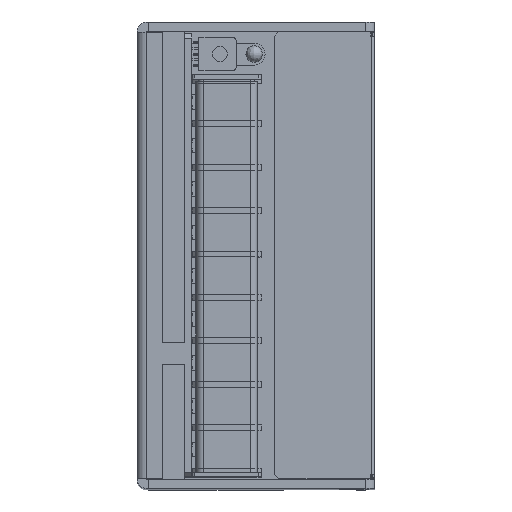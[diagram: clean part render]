
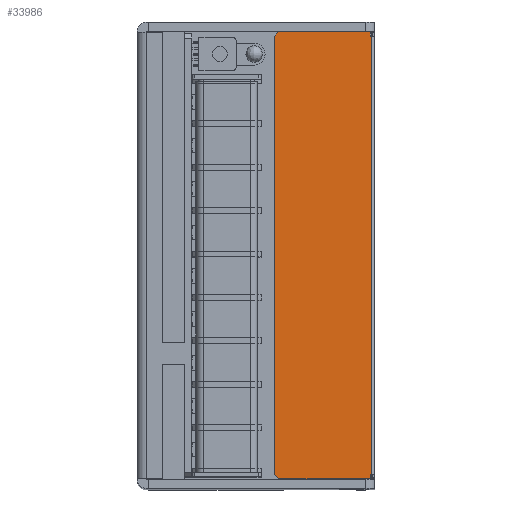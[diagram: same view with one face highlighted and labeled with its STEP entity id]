
A CAD part, top view. The second image highlights one B-rep face of the part: STEP entity #33986.
In plain terms, the highlighted planar face has unit normal (0, 0, 1).
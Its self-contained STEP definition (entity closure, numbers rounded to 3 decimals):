
#31719 = EDGE_CURVE ( 'NONE', #31720, #31721, #39087, .T. ) ;
#31720 = VERTEX_POINT ( 'NONE', #39082 ) ;
#31721 = VERTEX_POINT ( 'NONE', #39081 ) ;
#33934 = EDGE_CURVE ( 'NONE', #33945, #33980, #35811, .T. ) ;
#33940 = VERTEX_POINT ( 'NONE', #35794 ) ;
#33943 = EDGE_CURVE ( 'NONE', #33955, #31720, #35789, .T. ) ;
#33944 = EDGE_CURVE ( 'NONE', #33946, #33961, #35875, .T. ) ;
#33945 = VERTEX_POINT ( 'NONE', #35871 ) ;
#33946 = VERTEX_POINT ( 'NONE', #35869 ) ;
#33948 = ORIENTED_EDGE ( 'NONE', *, *, #33972, .F. ) ;
#33951 = ORIENTED_EDGE ( 'NONE', *, *, #33981, .T. ) ;
#33953 = EDGE_CURVE ( 'NONE', #33980, #31721, #35866, .T. ) ;
#33954 = ORIENTED_EDGE ( 'NONE', *, *, #33974, .T. ) ;
#33955 = VERTEX_POINT ( 'NONE', #35862 ) ;
#33956 = ORIENTED_EDGE ( 'NONE', *, *, #33944, .F. ) ;
#33958 = ORIENTED_EDGE ( 'NONE', *, *, #33959, .F. ) ;
#33959 = EDGE_CURVE ( 'NONE', #33940, #33945, #35860, .T. ) ;
#33961 = VERTEX_POINT ( 'NONE', #35855 ) ;
#33963 = ORIENTED_EDGE ( 'NONE', *, *, #31719, .T. ) ;
#33965 = VERTEX_POINT ( 'NONE', #35853 ) ;
#33967 = ORIENTED_EDGE ( 'NONE', *, *, #33953, .F. ) ;
#33970 = ORIENTED_EDGE ( 'NONE', *, *, #33973, .T. ) ;
#33971 = VERTEX_POINT ( 'NONE', #35852 ) ;
#33972 = EDGE_CURVE ( 'NONE', #33971, #33965, #35850, .T. ) ;
#33973 = EDGE_CURVE ( 'NONE', #33971, #33955, #35845, .T. ) ;
#33974 = EDGE_CURVE ( 'NONE', #33946, #33965, #35839, .T. ) ;
#33977 = ORIENTED_EDGE ( 'NONE', *, *, #33943, .T. ) ;
#33980 = VERTEX_POINT ( 'NONE', #35832 ) ;
#33981 = EDGE_CURVE ( 'NONE', #33940, #33961, #35939, .T. ) ;
#33982 = ORIENTED_EDGE ( 'NONE', *, *, #33934, .F. ) ;
#33986 = ADVANCED_FACE ( 'NONE', ( #35932 ), #35897, .T. ) ;
#34008 = EDGE_LOOP ( 'NONE', ( #33958, #33951, #33956, #33954, #33948, #33970, #33977, #33963, #33967, #33982 ) ) ;
#35788 = CARTESIAN_POINT ( 'NONE',  ( 51.5, 3.1, 190.7 ) ) ;
#35789 = LINE ( 'NONE', #35788, #35879 ) ;
#35794 = CARTESIAN_POINT ( 'NONE',  ( 31., 99.9, 190.7 ) ) ;
#35806 = DIRECTION ( 'NONE',  ( 0., -1., 0. ) ) ;
#35808 = VECTOR ( 'NONE', #35806, 1000. ) ;
#35810 = CARTESIAN_POINT ( 'NONE',  ( 51., 98.9, 190.7 ) ) ;
#35811 = LINE ( 'NONE', #35810, #35808 ) ;
#35832 = CARTESIAN_POINT ( 'NONE',  ( 51., 98.9, 190.7 ) ) ;
#35835 = DIRECTION ( 'NONE',  ( 0.707, -0.707, 0. ) ) ;
#35837 = VECTOR ( 'NONE', #35835, 1000. ) ;
#35838 = CARTESIAN_POINT ( 'NONE',  ( 31., 2.1, 190.7 ) ) ;
#35839 = LINE ( 'NONE', #35838, #35837 ) ;
#35841 = DIRECTION ( 'NONE',  ( 0., 1., 0. ) ) ;
#35842 = VECTOR ( 'NONE', #35841, 1000. ) ;
#35844 = CARTESIAN_POINT ( 'NONE',  ( 51., 51., 190.7 ) ) ;
#35845 = LINE ( 'NONE', #35844, #35842 ) ;
#35846 = DIRECTION ( 'NONE',  ( -1., 0., 0. ) ) ;
#35847 = VECTOR ( 'NONE', #35846, 1000. ) ;
#35848 = CARTESIAN_POINT ( 'NONE',  ( 51., 2.1, 190.7 ) ) ;
#35850 = LINE ( 'NONE', #35848, #35847 ) ;
#35852 = CARTESIAN_POINT ( 'NONE',  ( 51., 2.1, 190.7 ) ) ;
#35853 = CARTESIAN_POINT ( 'NONE',  ( 31., 2.1, 190.7 ) ) ;
#35855 = CARTESIAN_POINT ( 'NONE',  ( 30., 98.9, 190.7 ) ) ;
#35856 = DIRECTION ( 'NONE',  ( 1., 0., 0. ) ) ;
#35857 = VECTOR ( 'NONE', #35856, 1000. ) ;
#35858 = CARTESIAN_POINT ( 'NONE',  ( 51., 99.9, 190.7 ) ) ;
#35860 = LINE ( 'NONE', #35858, #35857 ) ;
#35862 = CARTESIAN_POINT ( 'NONE',  ( 51., 3.1, 190.7 ) ) ;
#35863 = DIRECTION ( 'NONE',  ( 1., 0., 0. ) ) ;
#35864 = VECTOR ( 'NONE', #35863, 1000. ) ;
#35865 = CARTESIAN_POINT ( 'NONE',  ( 51., 98.9, 190.7 ) ) ;
#35866 = LINE ( 'NONE', #35865, #35864 ) ;
#35869 = CARTESIAN_POINT ( 'NONE',  ( 30., 3.1, 190.7 ) ) ;
#35871 = CARTESIAN_POINT ( 'NONE',  ( 51., 99.9, 190.7 ) ) ;
#35872 = DIRECTION ( 'NONE',  ( 0., 1., 0. ) ) ;
#35873 = VECTOR ( 'NONE', #35872, 1000. ) ;
#35874 = CARTESIAN_POINT ( 'NONE',  ( 30., 51., 190.7 ) ) ;
#35875 = LINE ( 'NONE', #35874, #35873 ) ;
#35877 = DIRECTION ( 'NONE',  ( 1., 0., 0. ) ) ;
#35879 = VECTOR ( 'NONE', #35877, 1000. ) ;
#35891 = DIRECTION ( 'NONE',  ( 1., 0., 0. ) ) ;
#35892 = DIRECTION ( 'NONE',  ( 0., 0., 1. ) ) ;
#35894 = CARTESIAN_POINT ( 'NONE',  ( 51.5, 51., 190.7 ) ) ;
#35895 = AXIS2_PLACEMENT_3D ( 'NONE', #35894, #35892, #35891 ) ;
#35897 = PLANE ( 'NONE',  #35895 ) ;
#35932 = FACE_OUTER_BOUND ( 'NONE', #34008, .T. ) ;
#35934 = DIRECTION ( 'NONE',  ( -0.707, -0.707, 0. ) ) ;
#35936 = VECTOR ( 'NONE', #35934, 1000. ) ;
#35937 = CARTESIAN_POINT ( 'NONE',  ( 31., 99.9, 190.7 ) ) ;
#35939 = LINE ( 'NONE', #35937, #35936 ) ;
#39081 = CARTESIAN_POINT ( 'NONE',  ( 51.3, 98.9, 190.7 ) ) ;
#39082 = CARTESIAN_POINT ( 'NONE',  ( 51.3, 3.1, 190.7 ) ) ;
#39084 = DIRECTION ( 'NONE',  ( 0., 1., 0. ) ) ;
#39085 = VECTOR ( 'NONE', #39084, 1000. ) ;
#39086 = CARTESIAN_POINT ( 'NONE',  ( 51.3, 51., 190.7 ) ) ;
#39087 = LINE ( 'NONE', #39086, #39085 ) ;
